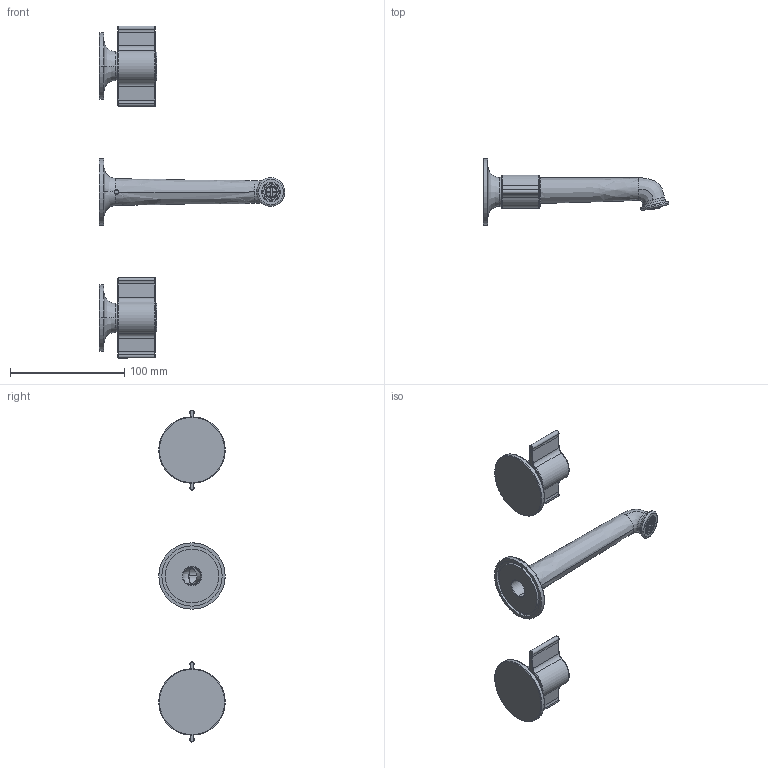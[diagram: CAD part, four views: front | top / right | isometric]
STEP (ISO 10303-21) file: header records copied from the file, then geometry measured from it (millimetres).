
FILE_DESCRIPTION(('STEP AP214'),'2;1');
FILE_NAME('DIS_3D_J410B+R010A.stp','2026-02-06T09:19:59',(''),(''),'2015.2.119','THINKDESIGN','');
FILE_SCHEMA(('AUTOMOTIVE_DESIGN'));
Length unit declared in the file: millimetre
Products named in the file (1): top
Bounding box: 161.91 x 58 x 290 mm (x, y, z)
Volume: 130946.9 mm3; surface area: 52812.2 mm2
Topology: 3 solids, 3 shells, 954 faces, 2525 edges, 1633 vertices
Faces by surface type: plane 674, cylinder 148, bspline 132
Entity records: 57880 total; most frequent: CARTESIAN_POINT 17057, ORIENTED_EDGE 5050, DIRECTION 4772, EDGE_CURVE 2525, STYLED_ITEM 1911, PRESENTATION_STYLE_ASSIGNMENT 1910, SURFACE_STYLE_USAGE 1910, SURFACE_SIDE_STYLE 1910
